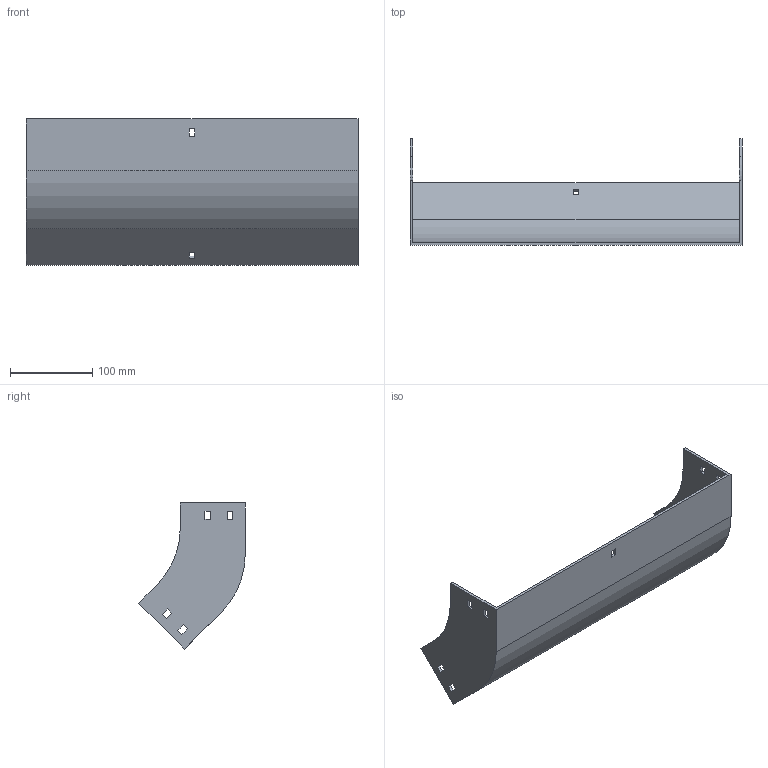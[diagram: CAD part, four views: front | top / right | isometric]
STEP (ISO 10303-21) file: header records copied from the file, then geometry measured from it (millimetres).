
FILE_DESCRIPTION (( 'STEP AP214' ), '1' );
FILE_NAME ('31F1C400.step', '2025-02-21T13:00:48', ( '' ), ( '' ), 'SwSTEP 2.0', 'SolidWorks 2023', '' );
FILE_SCHEMA (( 'AUTOMOTIVE_DESIGN' ));
Length unit declared in the file: millimetre
Products named in the file (1): 31F1C400
Bounding box: 404 x 129.5 x 177.79 mm (x, y, z)
Volume: 376246.4 mm3; surface area: 221031.3 mm2
Topology: 1 solids, 1 shells, 58 faces, 168 edges, 112 vertices
Faces by surface type: plane 54, cylinder 4
Entity records: 1943 total; most frequent: CARTESIAN_POINT 339, ORIENTED_EDGE 336, DIRECTION 294, EDGE_CURVE 168, LINE 160, VECTOR 160, VERTEX_POINT 112, EDGE_LOOP 78
